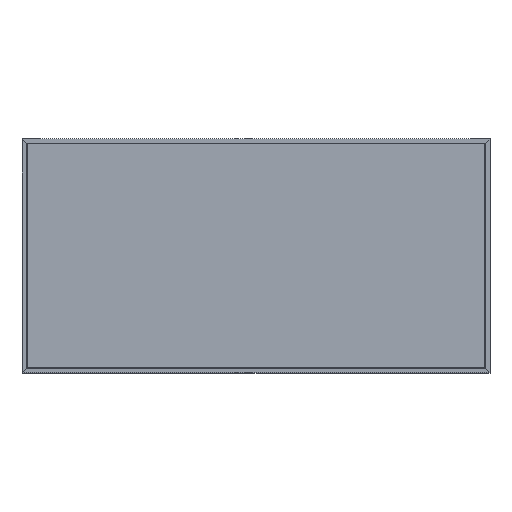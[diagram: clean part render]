
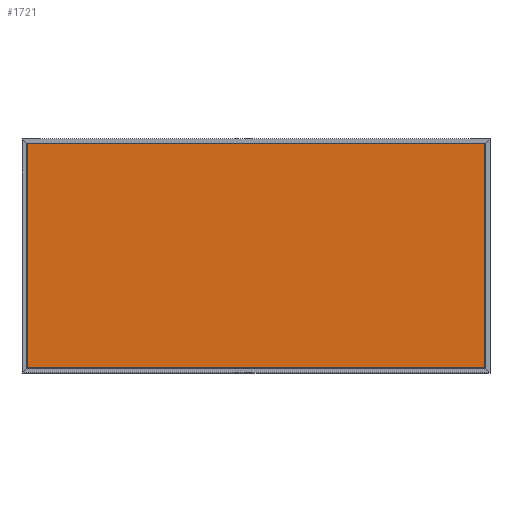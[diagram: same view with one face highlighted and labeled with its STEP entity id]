
A CAD part, top view. The second image highlights one B-rep face of the part: STEP entity #1721.
In plain terms, the highlighted planar face has unit normal (0, 0, 1).
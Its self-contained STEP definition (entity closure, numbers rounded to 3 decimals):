
#80=FACE_OUTER_BOUND('',#187,.T.);
#187=EDGE_LOOP('',(#1207,#1208,#1209,#1210));
#331=LINE('',#2527,#549);
#334=LINE('',#2532,#552);
#336=LINE('',#2536,#554);
#338=LINE('',#2539,#556);
#549=VECTOR('',#2094,10.);
#552=VECTOR('',#2099,10.);
#554=VECTOR('',#2103,10.);
#556=VECTOR('',#2107,10.);
#724=VERTEX_POINT('',#2525);
#725=VERTEX_POINT('',#2526);
#726=VERTEX_POINT('',#2531);
#727=VERTEX_POINT('',#2535);
#890=EDGE_CURVE('',#724,#725,#331,.T.);
#893=EDGE_CURVE('',#724,#726,#334,.T.);
#895=EDGE_CURVE('',#727,#725,#336,.T.);
#897=EDGE_CURVE('',#726,#727,#338,.T.);
#1207=ORIENTED_EDGE('',*,*,#897,.T.);
#1208=ORIENTED_EDGE('',*,*,#895,.T.);
#1209=ORIENTED_EDGE('',*,*,#890,.F.);
#1210=ORIENTED_EDGE('',*,*,#893,.T.);
#1507=PLANE('',#1854);
#1721=ADVANCED_FACE('',(#80),#1507,.T.);
#1854=AXIS2_PLACEMENT_3D('',#2540,#2108,#2109);
#2094=DIRECTION('',(0.,1.,0.));
#2099=DIRECTION('',(1.,0.,0.));
#2103=DIRECTION('',(-1.,0.,0.));
#2107=DIRECTION('',(0.,1.,0.));
#2108=DIRECTION('center_axis',(0.,0.,1.));
#2109=DIRECTION('ref_axis',(1.,0.,0.));
#2525=CARTESIAN_POINT('',(-489.3,-239.3,350.));
#2526=CARTESIAN_POINT('',(-489.3,239.3,350.));
#2527=CARTESIAN_POINT('',(-489.3,-239.3,350.));
#2531=CARTESIAN_POINT('',(489.3,-239.3,350.));
#2532=CARTESIAN_POINT('',(-489.3,-239.3,350.));
#2535=CARTESIAN_POINT('',(489.3,239.3,350.));
#2536=CARTESIAN_POINT('',(489.3,239.3,350.));
#2539=CARTESIAN_POINT('',(489.3,-239.3,350.));
#2540=CARTESIAN_POINT('Origin',(-489.3,-239.3,350.));
